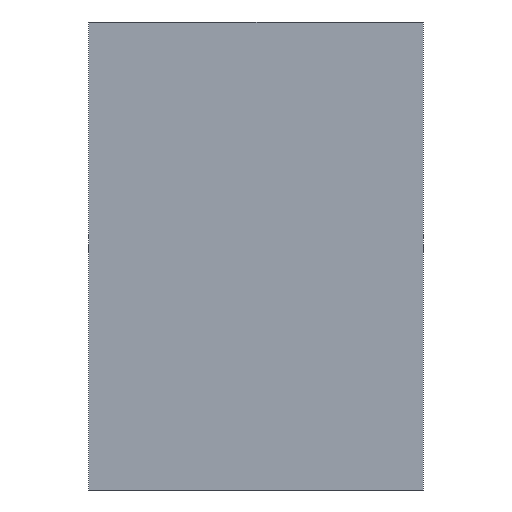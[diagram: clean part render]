
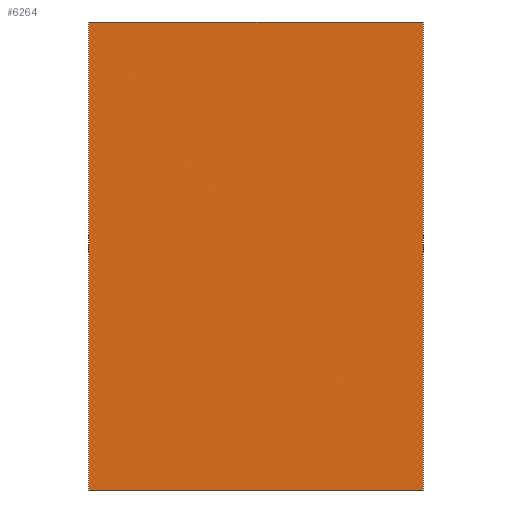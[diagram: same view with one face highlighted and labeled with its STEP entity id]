
A CAD part, front view. The second image highlights one B-rep face of the part: STEP entity #6264.
In plain terms, the highlighted planar face has unit normal (0, -1, 0).
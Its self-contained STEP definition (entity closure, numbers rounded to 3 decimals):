
#1759=DIRECTION('',(0.,0.,1.));
#1760=VECTOR('',#1759,175.);
#1761=CARTESIAN_POINT('',(-62.5,0.,-80.));
#1762=LINE('',#1761,#1760);
#1763=DIRECTION('',(1.,0.,0.));
#1764=VECTOR('',#1763,125.);
#1765=CARTESIAN_POINT('',(-62.5,0.,95.));
#1766=LINE('',#1765,#1764);
#1767=DIRECTION('',(0.,0.,-1.));
#1768=VECTOR('',#1767,175.);
#1769=CARTESIAN_POINT('',(62.5,0.,95.));
#1770=LINE('',#1769,#1768);
#1771=DIRECTION('',(-1.,0.,0.));
#1772=VECTOR('',#1771,125.);
#1773=CARTESIAN_POINT('',(62.5,0.,-80.));
#1774=LINE('',#1773,#1772);
#3570=CARTESIAN_POINT('',(-62.5,0.,-80.));
#3571=CARTESIAN_POINT('',(-62.5,0.,95.));
#3572=VERTEX_POINT('',#3570);
#3573=VERTEX_POINT('',#3571);
#3574=CARTESIAN_POINT('',(62.5,0.,95.));
#3575=CARTESIAN_POINT('',(62.5,0.,-80.));
#3576=VERTEX_POINT('',#3574);
#3577=VERTEX_POINT('',#3575);
#6251=CARTESIAN_POINT('',(0.,0.,0.));
#6252=DIRECTION('',(0.,1.,0.));
#6253=DIRECTION('',(1.,0.,0.));
#6254=AXIS2_PLACEMENT_3D('',#6251,#6252,#6253);
#6255=PLANE('',#6254);
#6256=ORIENTED_EDGE('',*,*,#6242,.T.);
#6258=ORIENTED_EDGE('',*,*,#6257,.T.);
#6260=ORIENTED_EDGE('',*,*,#6259,.T.);
#6261=ORIENTED_EDGE('',*,*,#6230,.T.);
#6262=EDGE_LOOP('',(#6256,#6258,#6260,#6261));
#6263=FACE_OUTER_BOUND('',#6262,.F.);
#6264=ADVANCED_FACE('',(#6263),#6255,.F.);
#6230=EDGE_CURVE('',#3577,#3572,#1774,.T.);
#6242=EDGE_CURVE('',#3572,#3573,#1762,.T.);
#6257=EDGE_CURVE('',#3573,#3576,#1766,.T.);
#6259=EDGE_CURVE('',#3576,#3577,#1770,.T.);
